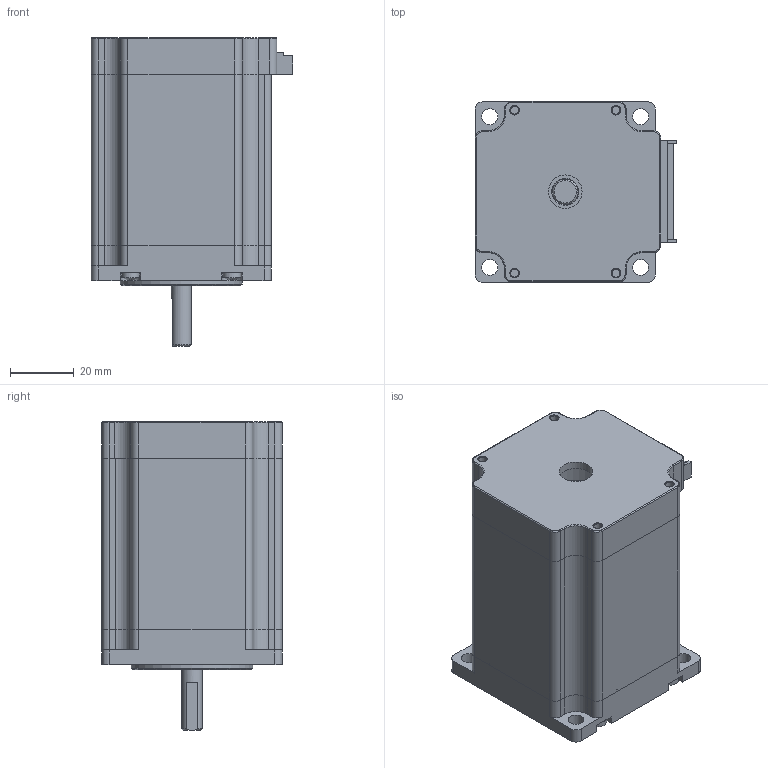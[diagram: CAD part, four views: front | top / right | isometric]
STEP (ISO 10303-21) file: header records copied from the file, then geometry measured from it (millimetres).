
FILE_DESCRIPTION (( 'STEP AP203' ), '1' );
FILE_NAME ('YK57HB76-03A.STEP', '2018-09-25T08:03:20', ( '' ), ( '' ), 'SwSTEP 2.0', 'SolidWorks 2014', '' );
FILE_SCHEMA (( 'CONFIG_CONTROL_DESIGN' ));
Length unit declared in the file: millimetre
Products named in the file (21): 粣創; 橈埽盓殤; 蹟佪; 粣郋; ヶ裔; 蟀諉ん; 綴裔; 隅赽; YK57HB76-03A
Assembly tree (12 placements, depth 2):
  蹟佪
  粣郋
  粣創
  粣創
  蟀諉ん
Bounding box: 63.12 x 56.54 x 96.6 mm (x, y, z)
Volume: 135077.8 mm3; surface area: 68394.6 mm2
Topology: 7 solids, 20 shells, 2176 faces, 5996 edges, 3979 vertices
Faces by surface type: plane 1564, cylinder 569, bspline 16, cone 15, torus 12
Full cylindrical faces by diameter (mm): 0.9 x6, 2 x24, 2.5 x4, 2.7 x4, 3 x8, 3.2 x4, 3.4 x8, 5 x4, 5.6 x4, 6.35 x1, 7.7 x2, 8 x4, 10 x1, 10.5 x2, 11 x4, 18 x6, 22 x4, 34.98 x3, 35.6 x2, 38.1 x1
Entity records: 55085 total; most frequent: CARTESIAN_POINT 11082, ORIENTED_EDGE 8739, DIRECTION 8689, EDGE_CURVE 4377, LINE 3095, VECTOR 3095, VERTEX_POINT 2963, AXIS2_PLACEMENT_3D 2797
